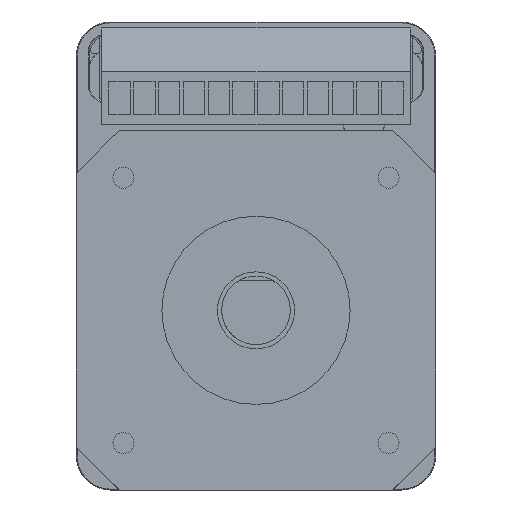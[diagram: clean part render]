
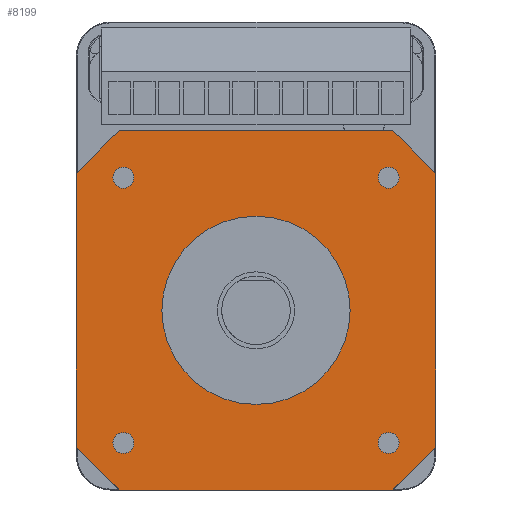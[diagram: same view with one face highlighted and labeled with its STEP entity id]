
A CAD part, front view. The second image highlights one B-rep face of the part: STEP entity #8199.
In plain terms, the highlighted planar face has unit normal (0, -1, 0).
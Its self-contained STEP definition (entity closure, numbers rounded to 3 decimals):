
#168=CIRCLE('',#8575,1.23);
#169=CIRCLE('',#8576,1.23);
#170=CIRCLE('',#8577,1.23);
#171=CIRCLE('',#8578,1.23);
#172=CIRCLE('',#8579,11.);
#475=ORIENTED_EDGE('',*,*,#2101,.F.);
#476=ORIENTED_EDGE('',*,*,#2102,.F.);
#477=ORIENTED_EDGE('',*,*,#2103,.F.);
#478=ORIENTED_EDGE('',*,*,#2104,.F.);
#479=ORIENTED_EDGE('',*,*,#2105,.F.);
#480=ORIENTED_EDGE('',*,*,#2088,.F.);
#481=ORIENTED_EDGE('',*,*,#2106,.T.);
#482=ORIENTED_EDGE('',*,*,#2076,.F.);
#483=ORIENTED_EDGE('',*,*,#2107,.T.);
#484=ORIENTED_EDGE('',*,*,#2065,.F.);
#485=ORIENTED_EDGE('',*,*,#2108,.T.);
#486=ORIENTED_EDGE('',*,*,#2054,.F.);
#487=ORIENTED_EDGE('',*,*,#2109,.T.);
#2054=EDGE_CURVE('',#2870,#2871,#3407,.T.);
#2065=EDGE_CURVE('',#2880,#2881,#3418,.T.);
#2076=EDGE_CURVE('',#2890,#2891,#3429,.T.);
#2088=EDGE_CURVE('',#2900,#2901,#3441,.T.);
#2101=EDGE_CURVE('',#2910,#2910,#168,.T.);
#2102=EDGE_CURVE('',#2911,#2911,#169,.T.);
#2103=EDGE_CURVE('',#2912,#2912,#170,.T.);
#2104=EDGE_CURVE('',#2913,#2913,#171,.T.);
#2105=EDGE_CURVE('',#2914,#2914,#172,.T.);
#2106=EDGE_CURVE('',#2900,#2891,#3451,.F.);
#2107=EDGE_CURVE('',#2890,#2881,#3452,.F.);
#2108=EDGE_CURVE('',#2880,#2871,#3453,.F.);
#2109=EDGE_CURVE('',#2870,#2901,#3454,.F.);
#2870=VERTEX_POINT('',#10979);
#2871=VERTEX_POINT('',#10981);
#2880=VERTEX_POINT('',#11002);
#2881=VERTEX_POINT('',#11003);
#2890=VERTEX_POINT('',#11024);
#2891=VERTEX_POINT('',#11025);
#2900=VERTEX_POINT('',#11046);
#2901=VERTEX_POINT('',#11048);
#2910=VERTEX_POINT('',#11072);
#2911=VERTEX_POINT('',#11074);
#2912=VERTEX_POINT('',#11076);
#2913=VERTEX_POINT('',#11078);
#2914=VERTEX_POINT('',#11080);
#3407=LINE('',#10980,#3979);
#3418=LINE('',#11001,#3990);
#3429=LINE('',#11023,#4001);
#3441=LINE('',#11047,#4013);
#3451=LINE('',#11081,#4023);
#3452=LINE('',#11082,#4024);
#3453=LINE('',#11083,#4025);
#3454=LINE('',#11084,#4026);
#3979=VECTOR('',#9195,1000.);
#3990=VECTOR('',#9208,1000.);
#4001=VECTOR('',#9221,1000.);
#4013=VECTOR('',#9235,1000.);
#4023=VECTOR('',#9265,1000.);
#4024=VECTOR('',#9266,1000.);
#4025=VECTOR('',#9267,1000.);
#4026=VECTOR('',#9268,1000.);
#4549=EDGE_LOOP('',(#475));
#4550=EDGE_LOOP('',(#476));
#4551=EDGE_LOOP('',(#477));
#4552=EDGE_LOOP('',(#478));
#4553=EDGE_LOOP('',(#479));
#4554=EDGE_LOOP('',(#480,#481,#482,#483,#484,#485,#486,#487));
#5007=FACE_BOUND('',#4549,.T.);
#5008=FACE_BOUND('',#4550,.T.);
#5009=FACE_BOUND('',#4551,.T.);
#5010=FACE_BOUND('',#4552,.T.);
#5011=FACE_BOUND('',#4553,.T.);
#5012=FACE_BOUND('',#4554,.T.);
#5465=PLANE('',#8574);
#8199=ADVANCED_FACE('',(#5007,#5008,#5009,#5010,#5011,#5012),#5465,.F.);
#8574=AXIS2_PLACEMENT_3D('',#11070,#9253,#9254);
#8575=AXIS2_PLACEMENT_3D('',#11071,#9255,#9256);
#8576=AXIS2_PLACEMENT_3D('',#11073,#9257,#9258);
#8577=AXIS2_PLACEMENT_3D('',#11075,#9259,#9260);
#8578=AXIS2_PLACEMENT_3D('',#11077,#9261,#9262);
#8579=AXIS2_PLACEMENT_3D('',#11079,#9263,#9264);
#9195=DIRECTION('',(1.,0.,0.));
#9208=DIRECTION('',(0.,0.,-1.));
#9221=DIRECTION('',(-1.,0.,0.));
#9235=DIRECTION('',(0.,0.,1.));
#9253=DIRECTION('',(0.,1.,0.));
#9254=DIRECTION('',(0.,0.,1.));
#9255=DIRECTION('',(0.,-1.,0.));
#9256=DIRECTION('',(1.,0.,0.));
#9257=DIRECTION('',(0.,-1.,0.));
#9258=DIRECTION('',(1.,0.,0.));
#9259=DIRECTION('',(0.,-1.,0.));
#9260=DIRECTION('',(1.,0.,0.));
#9261=DIRECTION('',(0.,-1.,0.));
#9262=DIRECTION('',(1.,0.,0.));
#9263=DIRECTION('',(0.,-1.,0.));
#9264=DIRECTION('',(1.,0.,0.));
#9265=DIRECTION('',(-0.707,0.,0.707));
#9266=DIRECTION('',(-0.707,0.,-0.707));
#9267=DIRECTION('',(0.707,0.,-0.707));
#9268=DIRECTION('',(0.707,0.,0.707));
#10979=CARTESIAN_POINT('',(-16.,0.,21.));
#10980=CARTESIAN_POINT('',(-21.,0.,21.));
#10981=CARTESIAN_POINT('',(16.,0.,21.));
#11001=CARTESIAN_POINT('',(21.,0.,21.));
#11002=CARTESIAN_POINT('',(21.,0.,16.));
#11003=CARTESIAN_POINT('',(21.,0.,-16.));
#11023=CARTESIAN_POINT('',(21.,0.,-21.));
#11024=CARTESIAN_POINT('',(16.,0.,-21.));
#11025=CARTESIAN_POINT('',(-16.,0.,-21.));
#11046=CARTESIAN_POINT('',(-21.,0.,-16.));
#11047=CARTESIAN_POINT('',(-21.,0.,-21.));
#11048=CARTESIAN_POINT('',(-21.,0.,16.));
#11070=CARTESIAN_POINT('',(0.,0.,0.));
#11071=CARTESIAN_POINT('',(15.5,0.,-15.5));
#11072=CARTESIAN_POINT('',(16.73,0.,-15.5));
#11073=CARTESIAN_POINT('',(-15.5,0.,-15.5));
#11074=CARTESIAN_POINT('',(-14.271,0.,-15.5));
#11075=CARTESIAN_POINT('',(-15.5,0.,15.5));
#11076=CARTESIAN_POINT('',(-14.271,0.,15.5));
#11077=CARTESIAN_POINT('',(15.5,0.,15.5));
#11078=CARTESIAN_POINT('',(16.73,0.,15.5));
#11079=CARTESIAN_POINT('',(0.,0.,0.));
#11080=CARTESIAN_POINT('',(11.,0.,0.));
#11081=CARTESIAN_POINT('',(-21.,0.,-16.));
#11082=CARTESIAN_POINT('',(16.,0.,-21.));
#11083=CARTESIAN_POINT('',(21.,0.,16.));
#11084=CARTESIAN_POINT('',(-16.,0.,21.));
